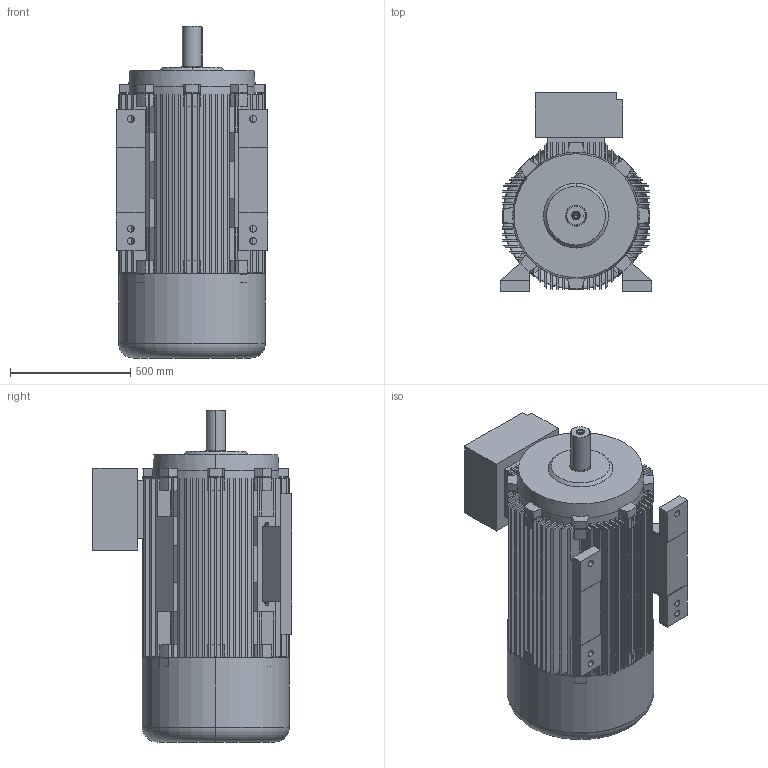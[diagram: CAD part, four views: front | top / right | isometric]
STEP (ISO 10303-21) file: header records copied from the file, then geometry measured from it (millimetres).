
FILE_DESCRIPTION (( 'STEP AP203' ), '1' );
FILE_NAME ('20.18436_A 7AT 315LX -4, -6, -8 B3 STANDK.STEP', '2018-04-27T07:07:51', ( '' ), ( '' ), 'SwSTEP 2.0', 'SolidWorks 2017', '' );
FILE_SCHEMA (( 'CONFIG_CONTROL_DESIGN' ));
Length unit declared in the file: millimetre
Products named in the file (1): 20.18436_A 7AT 315LX -4, -6, -8 B3 STANDK
Bounding box: 628 x 828 x 1380 mm (x, y, z)
Volume: 109282342.8 mm3; surface area: 11680049.8 mm2
Topology: 7 solids, 7 shells, 831 faces, 2254 edges, 1493 vertices
Faces by surface type: plane 677, cylinder 119, cone 22, bspline 9, torus 4
Entity records: 26320 total; most frequent: CARTESIAN_POINT 4942, ORIENTED_EDGE 4504, DIRECTION 4330, EDGE_CURVE 2252, VECTOR 1704, LINE 1704, VERTEX_POINT 1493, AXIS2_PLACEMENT_3D 1313
